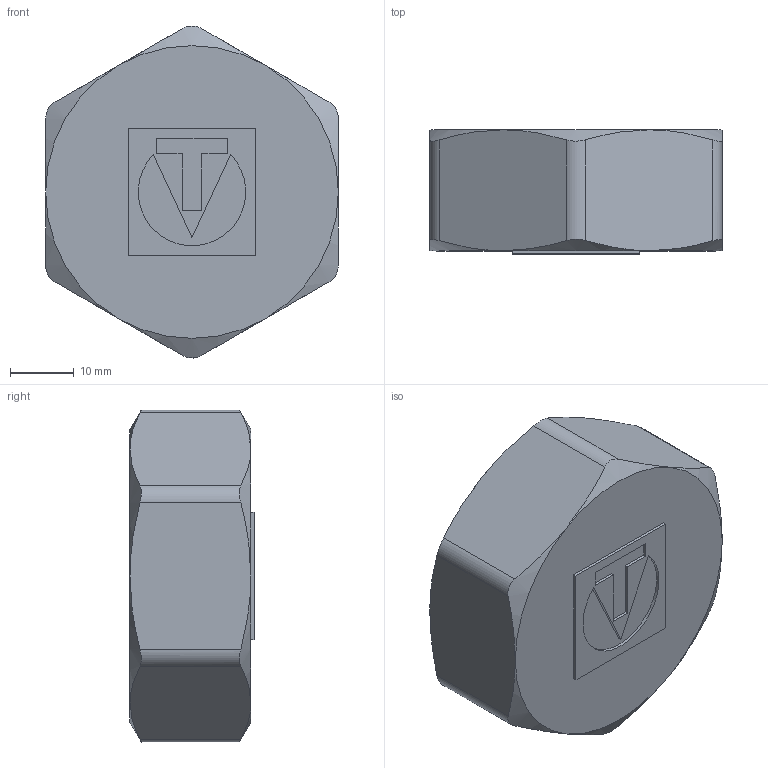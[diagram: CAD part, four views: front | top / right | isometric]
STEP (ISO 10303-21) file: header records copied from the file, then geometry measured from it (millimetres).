
FILE_DESCRIPTION(('STEP AP203'), '1');
FILE_NAME('ÂÐ.752513.013 - VTr.590.N.0007 Çàãë. ðåçüá', '2024-07-08T07:26:31', ('Boss'), (''), 'C3D Converter', 'C3D Toolkit', '');
FILE_SCHEMA(('CONFIG_CONTROL_DESIGN'));
Length unit declared in the file: millimetre
Products named in the file (1): ВР.752513.013
Bounding box: 46 x 19.5 x 52.18 mm (x, y, z)
Volume: 15401.2 mm3; surface area: 8417.8 mm2
Topology: 1 solids, 1 shells, 47 faces, 110 edges, 69 vertices
Faces by surface type: plane 26, cone 13, cylinder 8
Full cylindrical faces by diameter (mm): 38.953 x1
Entity records: 2516 total; most frequent: CARTESIAN_POINT 1494, ORIENTED_EDGE 212, DIRECTION 181, EDGE_CURVE 106, VERTEX_POINT 68, AXIS2_PLACEMENT_3D 63, LINE 55, VECTOR 55
